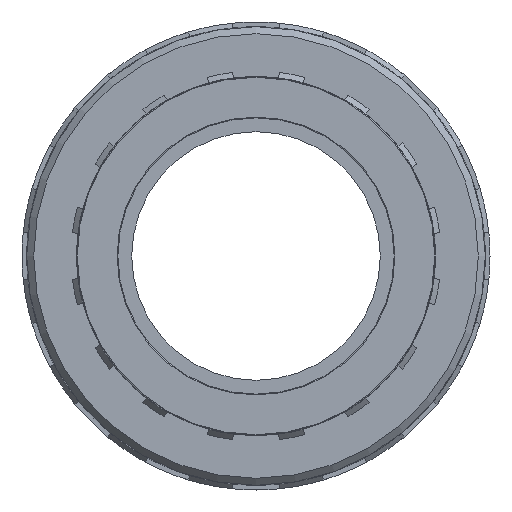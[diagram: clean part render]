
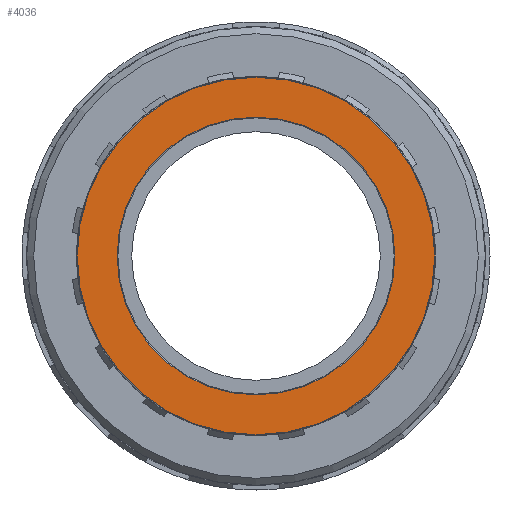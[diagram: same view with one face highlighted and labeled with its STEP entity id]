
A CAD part, left-side view. The second image highlights one B-rep face of the part: STEP entity #4036.
In plain terms, the highlighted planar face has unit normal (-1, 0, 0).
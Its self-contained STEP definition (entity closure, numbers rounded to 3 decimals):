
#29=FACE_BOUND('',#754,.T.);
#270=CIRCLE('',#4431,28.488);
#272=CIRCLE('',#4434,36.661);
#533=FACE_OUTER_BOUND('',#753,.T.);
#753=EDGE_LOOP('',(#3499));
#754=EDGE_LOOP('',(#3500));
#1934=VERTEX_POINT('',#6847);
#1936=VERTEX_POINT('',#6852);
#2508=EDGE_CURVE('',#1934,#1934,#270,.T.);
#2510=EDGE_CURVE('',#1936,#1936,#272,.T.);
#3499=ORIENTED_EDGE('',*,*,#2510,.F.);
#3500=ORIENTED_EDGE('',*,*,#2508,.F.);
#3831=PLANE('',#4433);
#4036=ADVANCED_FACE('',(#533,#29),#3831,.T.);
#4431=AXIS2_PLACEMENT_3D('',#6848,#5614,#5615);
#4433=AXIS2_PLACEMENT_3D('',#6851,#5618,#5619);
#4434=AXIS2_PLACEMENT_3D('',#6853,#5620,#5621);
#5614=DIRECTION('center_axis',(-1.,0.,0.));
#5615=DIRECTION('ref_axis',(0.,1.,0.));
#5618=DIRECTION('center_axis',(-1.,0.,0.));
#5619=DIRECTION('ref_axis',(0.,0.,1.));
#5620=DIRECTION('center_axis',(1.,0.,0.));
#5621=DIRECTION('ref_axis',(0.,1.,0.));
#6847=CARTESIAN_POINT('',(-46.,-28.488,0.));
#6848=CARTESIAN_POINT('Origin',(-46.,0.,0.));
#6851=CARTESIAN_POINT('Origin',(-46.,-28.328,0.));
#6852=CARTESIAN_POINT('',(-46.,-36.661,0.));
#6853=CARTESIAN_POINT('Origin',(-46.,0.,0.));
